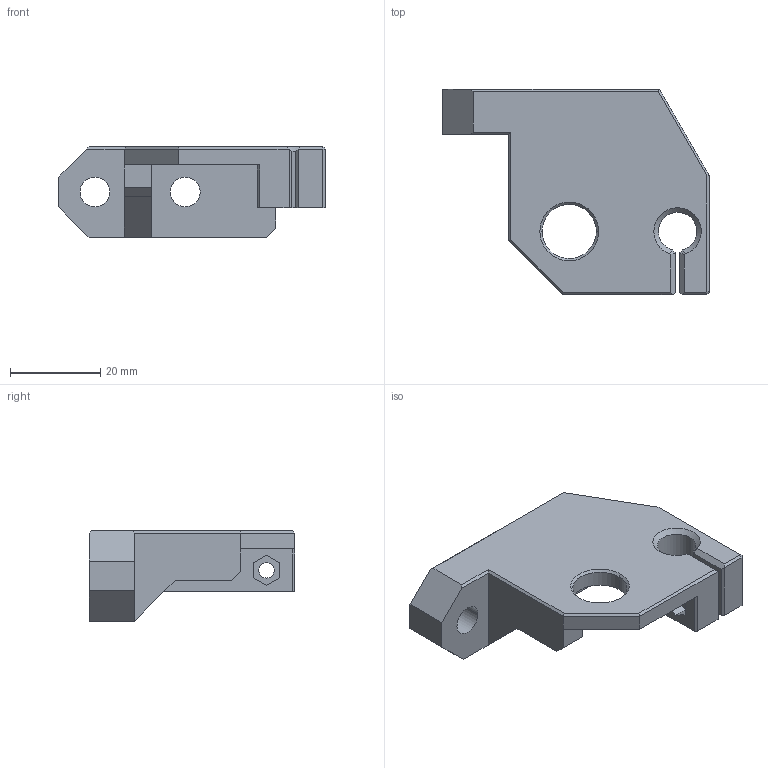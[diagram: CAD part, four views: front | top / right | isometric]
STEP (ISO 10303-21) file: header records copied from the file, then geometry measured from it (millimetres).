
FILE_DESCRIPTION(('CATIA V5 STEP Exchange'),'2;1');
FILE_NAME('D:\_이전 노트북\Cremaker모델링\Cremaker_profile-Metal(5차)-(Final)\Top-cap-R.stp','2020-10-23T05:22:15+00:00',('none'),('none'),'CATIA Version 5 Release 20 GA (IN-10)','CATIA V5 STEP AP203','none');
FILE_SCHEMA(('CONFIG_CONTROL_DESIGN'));
Length unit declared in the file: millimetre
Products named in the file (1): Top-cap-R
Bounding box: 59 x 45.5 x 20 mm (x, y, z)
Volume: 19230.1 mm3; surface area: 8307.2 mm2
Topology: 1 solids, 1 shells, 66 faces, 171 edges, 108 vertices
Faces by surface type: plane 52, cylinder 11, cone 3
Entity records: 1959 total; most frequent: CARTESIAN_POINT 356, ORIENTED_EDGE 342, DIRECTION 271, EDGE_CURVE 171, VECTOR 130, LINE 130, VERTEX_POINT 108, AXIS2_PLACEMENT_3D 84
